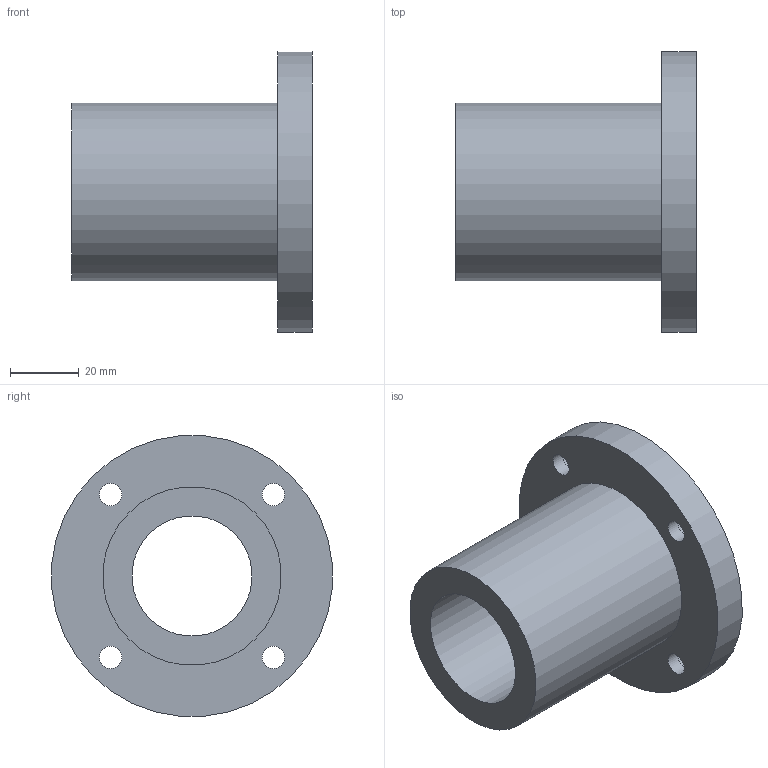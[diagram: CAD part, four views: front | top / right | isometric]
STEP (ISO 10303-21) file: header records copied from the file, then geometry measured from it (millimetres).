
FILE_DESCRIPTION(/* description */ (''),/* implementation_level */ '2;1');
FILE_NAME(/* name */ 'LMF35UU',/* time_stamp */ '2019-07-03T09:08:30+02:00',/* author */ ('VĂ©gh MĂˇtĂ©'),/* organization */ ('Bearing Kft'),/* preprocessor_version */ 'ST-DEVELOPER v16.7',/* originating_system */ 'DEX',/* authorisation */ $);
FILE_SCHEMA (('AUTOMOTIVE_DESIGN {1 0 10303 214 3 1 1}'));
Length unit declared in the file: millimetre
Products named in the file (1): LMF35UU
Bounding box: 70 x 81.69 x 81.69 mm (x, y, z)
Volume: 110022.1 mm3; surface area: 29644 mm2
Topology: 1 solids, 1 shells, 322 faces, 810 edges, 540 vertices
Faces by surface type: plane 248, bspline 61, cylinder 13
Full cylindrical faces by diameter (mm): 6.6 x4, 11 x4, 35 x1, 52 x1, 82 x1
Entity records: 12782 total; most frequent: CARTESIAN_POINT 5420, ORIENTED_EDGE 1596, DIRECTION 1226, EDGE_CURVE 798, LINE 650, VECTOR 650, VERTEX_POINT 540, EDGE_LOOP 394
